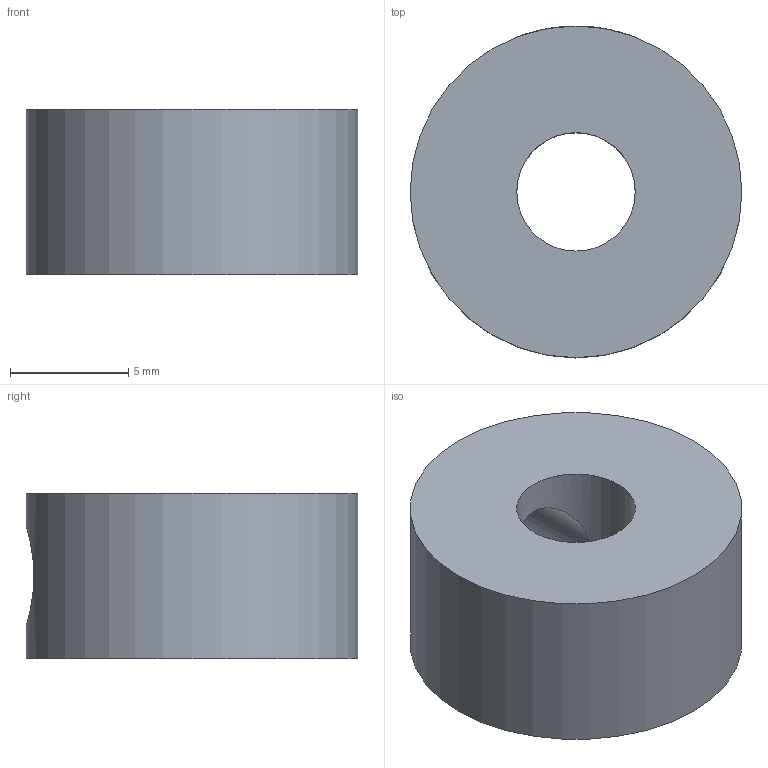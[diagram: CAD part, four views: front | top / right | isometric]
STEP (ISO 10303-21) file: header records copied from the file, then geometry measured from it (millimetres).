
FILE_DESCRIPTION(('FreeCAD Model'),'2;1');
FILE_NAME('Open CASCADE Shape Model','2021-05-04T08:54:10',('Author'),( ''),'Open CASCADE STEP processor 7.5','FreeCAD','Unknown');
FILE_SCHEMA(('AUTOMOTIVE_DESIGN { 1 0 10303 214 1 1 1 1 }'));
Length unit declared in the file: millimetre
Products named in the file (1): Lock Collar 5mm v1
Bounding box: 14 x 14 x 7 mm (x, y, z)
Volume: 875.5 mm3; surface area: 721.1 mm2
Topology: 1 solids, 1 shells, 5 faces, 11 edges, 8 vertices
Faces by surface type: cylinder 3, plane 2
Full cylindrical faces by diameter (mm): 4.2 x1, 5 x1, 14 x1
Entity records: 740 total; most frequent: CARTESIAN_POINT 493, DIRECTION 37, ORIENTED_EDGE 22, PCURVE 22, DEFINITIONAL_REPRESENTATION 22, LINE 13, VECTOR 13, B_SPLINE_CURVE_WITH_KNOTS 12
